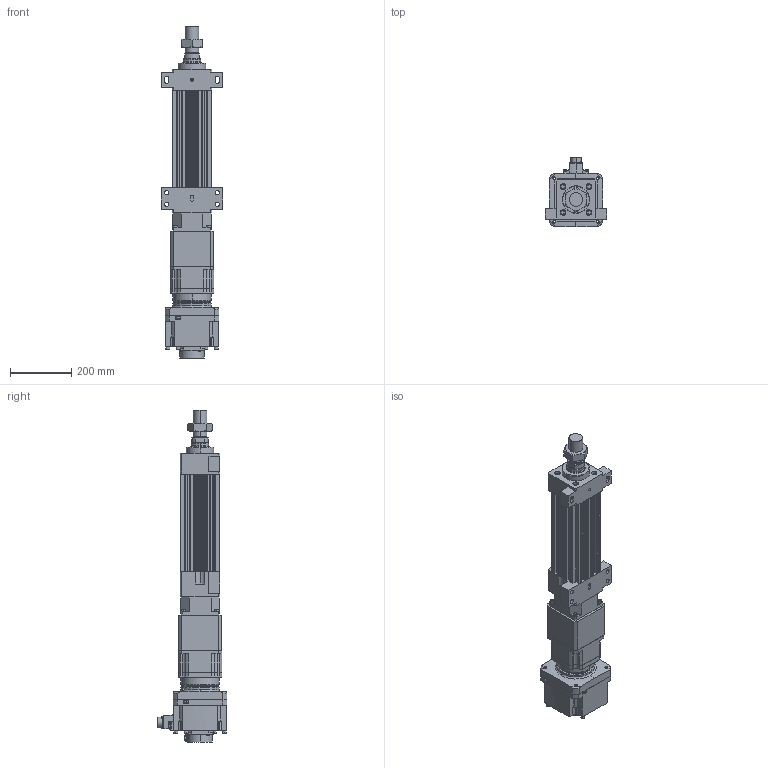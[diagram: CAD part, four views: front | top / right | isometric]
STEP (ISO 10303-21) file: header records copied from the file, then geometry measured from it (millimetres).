
FILE_DESCRIPTION (( 'STEP AP203' ), '1' );
FILE_NAME ('HES130FS(HS)-S100-W020G00-M-FFB.STEP', '2023-01-30T12:17:34', ( 'tms' ), ( '' ), 'SwSTEP 2.0', 'SolidWorks 2013', '' );
FILE_SCHEMA (( 'CONFIG_CONTROL_DESIGN' ));
Length unit declared in the file: millimetre
Products named in the file (9): P0403500801; HES130-S100-G142-FFB; AB142-003[HG-SR352]; HES130FS(HS)-S100-W020G00-M-FFB; HES130 ROD M ST100; AB1421; HG-SR202; M45X1.5P; P1301500001
Assembly tree (8 placements, depth 3):
  HES130FS(HS)-S100-W020G00-M-FFB
    HES130-S100-G142-FFB
    HES130 ROD M ST100
    M45X1.5P
    AB142-003[HG-SR352]
      AB1421
      P1301500001
      P0403500801
    HG-SR202
Bounding box: 200 x 228.85 x 1087.5 mm (x, y, z)
Volume: 10005929.8 mm3; surface area: 1225159 mm2
Topology: 4 solids, 22 shells, 1518 faces, 3922 edges, 2545 vertices
Faces by surface type: cylinder 676, plane 600, cone 160, bspline 76, torus 6
Entity records: 55270 total; most frequent: CARTESIAN_POINT 16778, DIRECTION 8032, ORIENTED_EDGE 7750, EDGE_CURVE 3897, AXIS2_PLACEMENT_3D 3016, VERTEX_POINT 2545, VECTOR 2000, LINE 2000
